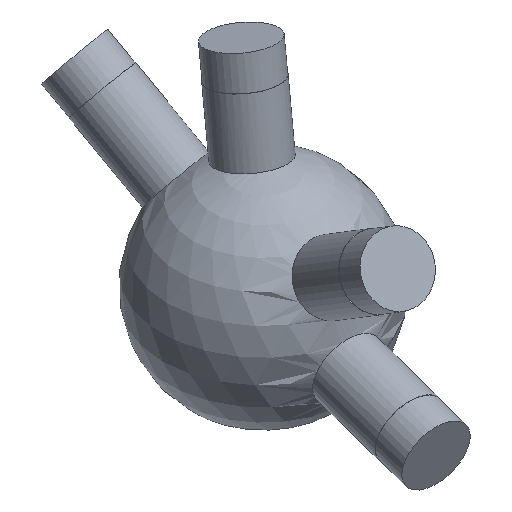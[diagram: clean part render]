
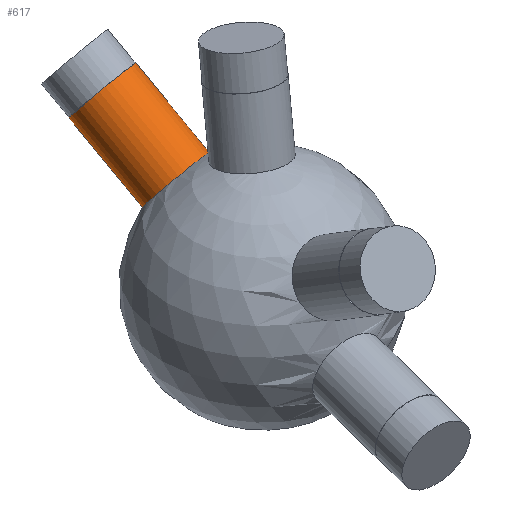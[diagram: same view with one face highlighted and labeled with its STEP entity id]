
A CAD part, isometric view. The second image highlights one B-rep face of the part: STEP entity #617.
In plain terms, the highlighted cylindrical face has radius 6 mm (diameter 12 mm), a full revolution.
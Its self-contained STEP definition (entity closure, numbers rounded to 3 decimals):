
#33 = SPHERICAL_SURFACE('',#34,20.);
#34 = AXIS2_PLACEMENT_3D('',#35,#36,#37);
#35 = CARTESIAN_POINT('',(0.,0.,0.));
#36 = DIRECTION('',(0.,0.,1.));
#37 = DIRECTION('',(1.,0.,-0.));
#323 = EDGE_CURVE('',#324,#324,#326,.T.);
#324 = VERTEX_POINT('',#325);
#325 = CARTESIAN_POINT('',(-2.263,11.156,
    16.444));
#326 = SURFACE_CURVE('',#327,(#332,#401),.PCURVE_S1.);
#327 = CIRCLE('',#328,6.);
#328 = AXIS2_PLACEMENT_3D('',#329,#330,#331);
#329 = CARTESIAN_POINT('',(-2.263,14.873,
    11.734));
#330 = DIRECTION('',(-0.119,0.78,0.615));
#331 = DIRECTION('',(0.,-0.619,0.785)
  );
#332 = PCURVE('',#33,#333);
#333 = DEFINITIONAL_REPRESENTATION('',(#334),#400);
#334 = B_SPLINE_CURVE_WITH_KNOTS('',8,(#335,#336,#337,#338,#339,#340,
    #341,#342,#343,#344,#345,#346,#347,#348,#349,#350,#351,#352,#353,
    #354,#355,#356,#357,#358,#359,#360,#361,#362,#363,#364,#365,#366,
    #367,#368,#369,#370,#371,#372,#373,#374,#375,#376,#377,#378,#379,
    #380,#381,#382,#383,#384,#385,#386,#387,#388,#389,#390,#391,#392,
    #393,#394,#395,#396,#397,#398,#399),.UNSPECIFIED.,.T.,.F.,(9,7,7,7,7
    ,7,7,7,7,9),(0.,0.393,1.129,1.773,
    2.901,3.746,4.381,5.332,
    5.808,6.283),.UNSPECIFIED.);
#335 = CARTESIAN_POINT('',(1.771,0.965));
#336 = CARTESIAN_POINT('',(1.745,0.967));
#337 = CARTESIAN_POINT('',(1.719,0.968));
#338 = CARTESIAN_POINT('',(1.693,0.968));
#339 = CARTESIAN_POINT('',(1.667,0.966));
#340 = CARTESIAN_POINT('',(1.642,0.963));
#341 = CARTESIAN_POINT('',(1.617,0.96));
#342 = CARTESIAN_POINT('',(1.593,0.955));
#343 = CARTESIAN_POINT('',(1.526,0.938));
#344 = CARTESIAN_POINT('',(1.486,0.923));
#345 = CARTESIAN_POINT('',(1.45,0.905));
#346 = CARTESIAN_POINT('',(1.42,0.885));
#347 = CARTESIAN_POINT('',(1.395,0.862));
#348 = CARTESIAN_POINT('',(1.375,0.838));
#349 = CARTESIAN_POINT('',(1.359,0.812));
#350 = CARTESIAN_POINT('',(1.338,0.763));
#351 = CARTESIAN_POINT('',(1.332,0.739));
#352 = CARTESIAN_POINT('',(1.329,0.714));
#353 = CARTESIAN_POINT('',(1.329,0.69));
#354 = CARTESIAN_POINT('',(1.332,0.666));
#355 = CARTESIAN_POINT('',(1.337,0.642));
#356 = CARTESIAN_POINT('',(1.344,0.618));
#357 = CARTESIAN_POINT('',(1.37,0.555));
#358 = CARTESIAN_POINT('',(1.393,0.517));
#359 = CARTESIAN_POINT('',(1.421,0.482));
#360 = CARTESIAN_POINT('',(1.454,0.451));
#361 = CARTESIAN_POINT('',(1.49,0.423));
#362 = CARTESIAN_POINT('',(1.53,0.401));
#363 = CARTESIAN_POINT('',(1.572,0.383));
#364 = CARTESIAN_POINT('',(1.649,0.363));
#365 = CARTESIAN_POINT('',(1.682,0.357));
#366 = CARTESIAN_POINT('',(1.716,0.355));
#367 = CARTESIAN_POINT('',(1.75,0.355));
#368 = CARTESIAN_POINT('',(1.784,0.359));
#369 = CARTESIAN_POINT('',(1.818,0.367));
#370 = CARTESIAN_POINT('',(1.85,0.377));
#371 = CARTESIAN_POINT('',(1.905,0.4));
#372 = CARTESIAN_POINT('',(1.927,0.412));
#373 = CARTESIAN_POINT('',(1.949,0.425));
#374 = CARTESIAN_POINT('',(1.97,0.44));
#375 = CARTESIAN_POINT('',(1.99,0.456));
#376 = CARTESIAN_POINT('',(2.008,0.473));
#377 = CARTESIAN_POINT('',(2.025,0.492));
#378 = CARTESIAN_POINT('',(2.064,0.54));
#379 = CARTESIAN_POINT('',(2.083,0.572));
#380 = CARTESIAN_POINT('',(2.099,0.606));
#381 = CARTESIAN_POINT('',(2.11,0.641));
#382 = CARTESIAN_POINT('',(2.116,0.677));
#383 = CARTESIAN_POINT('',(2.117,0.713));
#384 = CARTESIAN_POINT('',(2.11,0.749));
#385 = CARTESIAN_POINT('',(2.09,0.8));
#386 = CARTESIAN_POINT('',(2.081,0.817));
#387 = CARTESIAN_POINT('',(2.07,0.833));
#388 = CARTESIAN_POINT('',(2.058,0.849));
#389 = CARTESIAN_POINT('',(2.043,0.864));
#390 = CARTESIAN_POINT('',(2.026,0.879));
#391 = CARTESIAN_POINT('',(2.007,0.892));
#392 = CARTESIAN_POINT('',(1.965,0.917));
#393 = CARTESIAN_POINT('',(1.942,0.928));
#394 = CARTESIAN_POINT('',(1.917,0.938));
#395 = CARTESIAN_POINT('',(1.891,0.946));
#396 = CARTESIAN_POINT('',(1.862,0.953));
#397 = CARTESIAN_POINT('',(1.833,0.959));
#398 = CARTESIAN_POINT('',(1.802,0.963));
#399 = CARTESIAN_POINT('',(1.771,0.965));
#400 = ( GEOMETRIC_REPRESENTATION_CONTEXT(2) 
PARAMETRIC_REPRESENTATION_CONTEXT() REPRESENTATION_CONTEXT('2D SPACE',''
  ) );
#401 = PCURVE('',#402,#407);
#402 = CYLINDRICAL_SURFACE('',#403,6.);
#403 = AXIS2_PLACEMENT_3D('',#404,#405,#406);
#404 = CARTESIAN_POINT('',(0.,0.,0.));
#405 = DIRECTION('',(-0.119,0.78,0.615));
#406 = DIRECTION('',(0.,-0.619,0.785)
  );
#407 = DEFINITIONAL_REPRESENTATION('',(#408),#412);
#408 = LINE('',#409,#410);
#409 = CARTESIAN_POINT('',(0.,19.079));
#410 = VECTOR('',#411,1.);
#411 = DIRECTION('',(1.,0.));
#412 = ( GEOMETRIC_REPRESENTATION_CONTEXT(2) 
PARAMETRIC_REPRESENTATION_CONTEXT() REPRESENTATION_CONTEXT('2D SPACE',''
  ) );
#617 = ADVANCED_FACE('',(#618),#402,.T.);
#618 = FACE_BOUND('',#619,.T.);
#619 = EDGE_LOOP('',(#620,#643,#670,#671));
#620 = ORIENTED_EDGE('',*,*,#621,.T.);
#621 = EDGE_CURVE('',#324,#622,#624,.T.);
#622 = VERTEX_POINT('',#623);
#623 = CARTESIAN_POINT('',(-4.161,23.627,26.284
    ));
#624 = SEAM_CURVE('',#625,(#629,#636),.PCURVE_S1.);
#625 = LINE('',#626,#627);
#626 = CARTESIAN_POINT('',(0.,-3.716,
    4.71));
#627 = VECTOR('',#628,1.);
#628 = DIRECTION('',(-0.119,0.78,0.615));
#629 = PCURVE('',#402,#630);
#630 = DEFINITIONAL_REPRESENTATION('',(#631),#635);
#631 = LINE('',#632,#633);
#632 = CARTESIAN_POINT('',(6.283,-0.));
#633 = VECTOR('',#634,1.);
#634 = DIRECTION('',(0.,1.));
#635 = ( GEOMETRIC_REPRESENTATION_CONTEXT(2) 
PARAMETRIC_REPRESENTATION_CONTEXT() REPRESENTATION_CONTEXT('2D SPACE',''
  ) );
#636 = PCURVE('',#402,#637);
#637 = DEFINITIONAL_REPRESENTATION('',(#638),#642);
#638 = LINE('',#639,#640);
#639 = CARTESIAN_POINT('',(0.,-0.));
#640 = VECTOR('',#641,1.);
#641 = DIRECTION('',(0.,1.));
#642 = ( GEOMETRIC_REPRESENTATION_CONTEXT(2) 
PARAMETRIC_REPRESENTATION_CONTEXT() REPRESENTATION_CONTEXT('2D SPACE',''
  ) );
#643 = ORIENTED_EDGE('',*,*,#644,.F.);
#644 = EDGE_CURVE('',#622,#622,#645,.T.);
#645 = SURFACE_CURVE('',#646,(#651,#658),.PCURVE_S1.);
#646 = CIRCLE('',#647,6.);
#647 = AXIS2_PLACEMENT_3D('',#648,#649,#650);
#648 = CARTESIAN_POINT('',(-4.161,27.344,
    21.573));
#649 = DIRECTION('',(-0.119,0.78,0.615));
#650 = DIRECTION('',(0.,-0.619,0.785)
  );
#651 = PCURVE('',#402,#652);
#652 = DEFINITIONAL_REPRESENTATION('',(#653),#657);
#653 = LINE('',#654,#655);
#654 = CARTESIAN_POINT('',(0.,35.077));
#655 = VECTOR('',#656,1.);
#656 = DIRECTION('',(1.,0.));
#657 = ( GEOMETRIC_REPRESENTATION_CONTEXT(2) 
PARAMETRIC_REPRESENTATION_CONTEXT() REPRESENTATION_CONTEXT('2D SPACE',''
  ) );
#658 = PCURVE('',#659,#664);
#659 = PLANE('',#660);
#660 = AXIS2_PLACEMENT_3D('',#661,#662,#663);
#661 = CARTESIAN_POINT('',(-4.161,27.344,
    21.573));
#662 = DIRECTION('',(-0.119,0.78,0.615));
#663 = DIRECTION('',(0.,-0.619,0.785)
  );
#664 = DEFINITIONAL_REPRESENTATION('',(#665),#669);
#665 = CIRCLE('',#666,6.);
#666 = AXIS2_PLACEMENT_2D('',#667,#668);
#667 = CARTESIAN_POINT('',(0.,0.));
#668 = DIRECTION('',(1.,0.));
#669 = ( GEOMETRIC_REPRESENTATION_CONTEXT(2) 
PARAMETRIC_REPRESENTATION_CONTEXT() REPRESENTATION_CONTEXT('2D SPACE',''
  ) );
#670 = ORIENTED_EDGE('',*,*,#621,.F.);
#671 = ORIENTED_EDGE('',*,*,#323,.T.);
